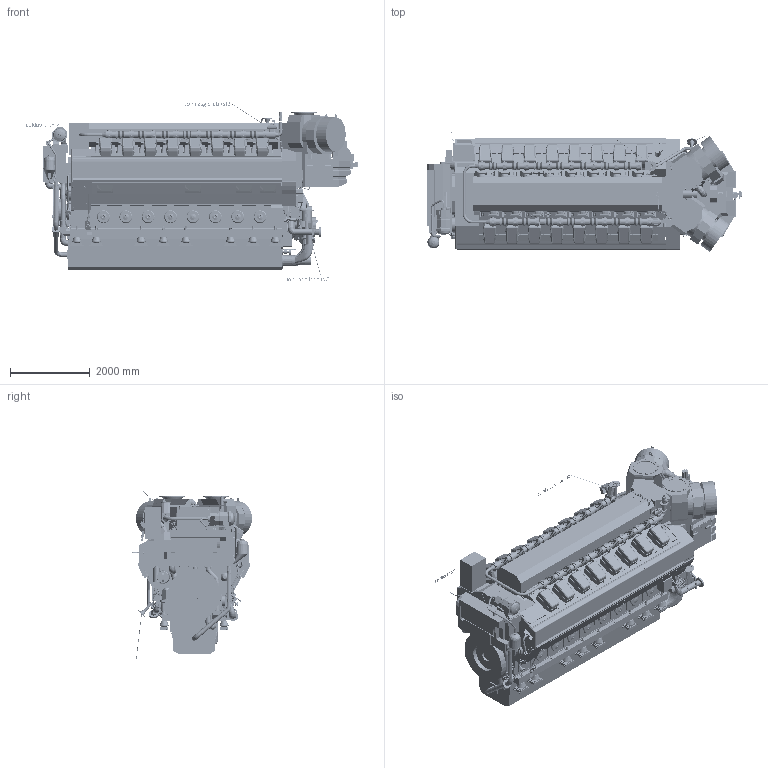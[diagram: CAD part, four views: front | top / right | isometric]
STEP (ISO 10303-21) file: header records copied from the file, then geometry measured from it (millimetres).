
FILE_DESCRIPTION(/* description */ (''),/* implementation_level */ '2;1');
FILE_NAME(/* name */ 'DAAF380153_A.stp',/* time_stamp */ '2022-01-12T11:36:07+02:00',/* author */ (''),/* organization */ (''),/* preprocessor_version */ 'ST-DEVELOPER v16.7',/* originating_system */ 'SIEMENS PLM Software NX 1915',/* authorisation */ '');
FILE_SCHEMA (('AUTOMOTIVE_DESIGN { 1 0 10303 214 3 1 1 1 }'));
Products named in the file (89): 001240134-A_STEEL PLATE; 001240134--_STEEL PLATE; PABA336739--_Cover; PABA337764--_Body; PAAF523057--; PAAF702810--_STUD; 0031B006100-K_ROUND NUT_MODEL; PAAF078123--_COVER; PABA002081--_Main cabinet 2nd gen unic; PAAF093586--_STARTING AIR SYSTEM; PABA001817--_Covers for crankcase and camshaft; PAAF427671--_TURBOCHARGER; PAAF078708--_ACTUATOR; PAAF991059--_Pilot fuel line to hot box; PABA002426--_Oil mist detector DN150_ Dr Horn DN125; PABA089633--_Gas vent system connecting flange; PABA311381--_Governor driver; PAAF688051--_DRAIN PIPE; PABA041040--_Drain pipe from air reciever_ driving end; PAAF243373--_AIR DISTRIBUTING PIECE; PAAF689738--_CLEANING DEVICE; PAAF695508--_WASTEGATE PIPE; PAAF211478--_WASTE GATE _ BY-PASS; PAAF695507--_COVERS; PABA033164--_Fastening equipment for charge air cooler; PAAF450547--_CHARGE AIR SYSTEM; PAAF066738--_INSULATION BOX; PAAF066763--_INSULATING BOX; PAAF093834--_LT-WATER SYSTEM; PAAF078635--_LT-WATER SYSTEM; PAAF077590--_THERMOSTATIC VALVE; PAAF688053--_AIR VENT SYSTEM; PAAF688045--_AIR VENT SYSTEM; PAAF078607--_HT-WATER PIPES; PAAF078553--_HT-WATER SYSTEM; PAAF077589--_CONNECTING PIECE; PAAF688036--_AIR VENT SYSTEM; PAAF221638--_WATER PUMP; PAAF220774--_WATER PUMP; PAAF093449--_SEPARATOR CONNECTIONS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
Assembly tree (171 placements, depth 4):
  DAAF380153_A-Outline drawing
    PABA337443--_W16V34DF-TCF-WET_MODEL
      PAAF063635--_ENGINE BLOCK
      PABA034609--_Cylinder heads and multiducts 16V
      PAAF238216--_CRANKSHAFT
      PABA034962--_End cover for camshaft B-bank
      PAAF295070--_INTERMEDIATE GEAR
      PABA001563--_Shut-down mechanism
      PABA052452--_Covers for air bottle_ noise reduction
      PABA201394--_Covers top shields
      PABA052426--_Cylinder head covers 16V
      PABA053131--_Covers in free end
      PABA053684--_Covers in flywheel end
      PAAF078522--_FUEL PIPES
      PAAF852803--_PILOT FUEL LINE
      PAAF074389--_END COVER
      PAAF074393--_PUMP COVER
      PAAF304653--_PUMP COVER
      PAAF078239--_COVER
      PAAF087001--_WATER CONNECTIONS
      PAAF243666--_EQUIPMENT
      PAAF087123--_LEAK FUEL PIPES
      PAAF087117--_LEAK FUEL SYSTEM
      PAAF087083--_LEAK FUEL SYSTEM
      PAAF087113--_LEAK FUEL SYSTEM
      PAAF078077--_TURNING DEVICE
      PABA067993--_Double wall gas feed pipe
      PAAF247464--_FRAME
      PABA068010--_Gas feed pipe between banks
      PABA156630--_Gas admission valves and bellows between cylinders
      PABA076699--_Double wall gas vent system
      PABA173946--_Nitrogen gas pipe
      PAAF245056--_LUBRICATING OIL PUMP
      PAAF243370--_PRELUBRICATING PUMP
      PAAF087128--_OIL PIPE
      PAAF990034--_Lube oil connection
      PAAF078535--_COOLING WATER PIPES
      PAAF087138--_OIL PIPE
      PAAF074410--_LUBE OIL MODULE  x2
      PAAF087147--_OIL SUCTION PIPE
      PAAF074448--_WET SUMP
      PAAF078536--_DIPSTICK
      PAAF093449--_SEPARATOR CONNECTIONS
      PAAF220774--_WATER PUMP
      PAAF221638--_WATER PUMP
      PAAF688036--_AIR VENT SYSTEM
      PAAF077589--_CONNECTING PIECE
      PAAF078553--_HT-WATER SYSTEM
      PAAF078607--_HT-WATER PIPES
      PAAF688045--_AIR VENT SYSTEM
      PAAF688053--_AIR VENT SYSTEM
      PAAF077590--_THERMOSTATIC VALVE
      PAAF078635--_LT-WATER SYSTEM
      PAAF093834--_LT-WATER SYSTEM
      PAAF066763--_INSULATING BOX
      PAAF066738--_INSULATION BOX
      PAAF450547--_CHARGE AIR SYSTEM
      PABA033164--_Fastening equipment for charge air cooler
      PAAF695507--_COVERS
      PAAF211478--_WASTE GATE _ BY-PASS
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Bounding box: 8304.84 x 3000.14 x 4526.92 mm (x, y, z)
Volume: 33090552400.6 mm3; surface area: 385393676.5 mm2
Topology: 605 solids, 773 shells, 22785 faces, 55511 edges, 35602 vertices
Faces by surface type: plane 11689, cylinder 5908, bspline 2901, torus 967, extrusion 665, cone 639, revolution 9, sphere 7
Full cylindrical faces by diameter (mm): 0.107 x1, 3.3 x16, 6 x16, 6.2 x128, 8 x38, 8.5 x1, 8.993 x3, 9 x20, 9.685 x1, 9.69 x1, 10 x21, 11 x19, 11.908 x1, 11.995 x1, 12 x108, 12.6 x2, 13.2 x4, 13.6 x2, 14 x60, 14.596 x1, 15 x59, 15.5 x4, 15.6 x1, 15.7 x4, 16 x19, 16.376 x1, 16.658 x1, 17 x10, 17.5 x132, 17.997 x1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
Entity records: 738571 total; most frequent: CARTESIAN_POINT 278810, DIRECTION 90313, ORIENTED_EDGE 90054, EDGE_CURVE 45027, AXIS2_PLACEMENT_3D 32477, VERTEX_POINT 30333, EDGE_LOOP 26232, VECTOR 25350
